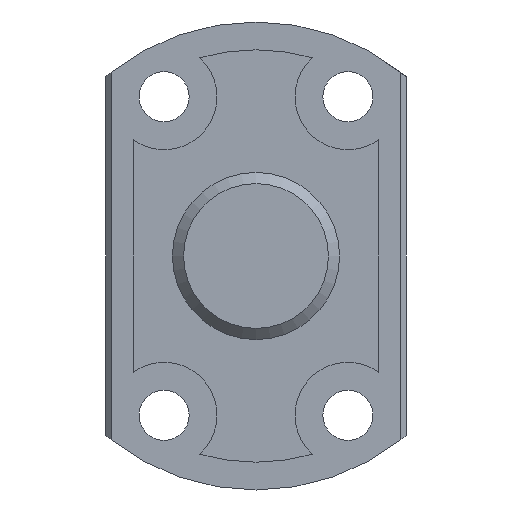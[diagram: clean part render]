
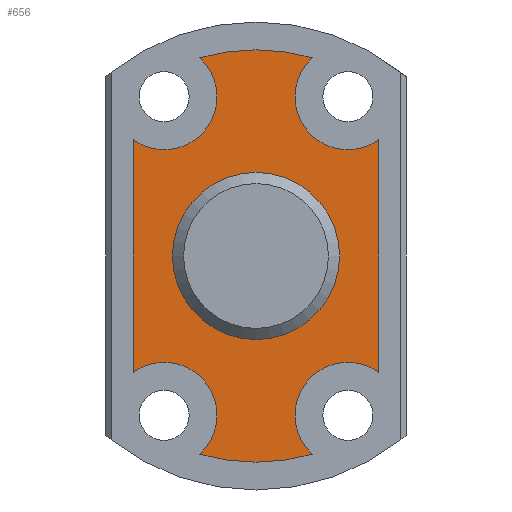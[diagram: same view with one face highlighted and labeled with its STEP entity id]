
A CAD part, left-side view. The second image highlights one B-rep face of the part: STEP entity #656.
In plain terms, the highlighted planar face has unit normal (-1, 0, 0).
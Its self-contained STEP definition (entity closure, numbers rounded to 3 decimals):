
#568=CARTESIAN_POINT('',(203.5,0.,0.0));
#569=DIRECTION('',(1.0,0.0,0.0));
#570=DIRECTION('',(0.0,0.0,-1.0));
#571=AXIS2_PLACEMENT_3D('',#568,#569,#570);
#572=PLANE('',#571);
#573=CARTESIAN_POINT('',(203.5,-11.0,-10.416));
#574=VERTEX_POINT('',#573);
#575=CARTESIAN_POINT('',(203.5,-5.048,-17.798));
#576=VERTEX_POINT('',#575);
#577=CARTESIAN_POINT('',(203.5,-8.25,-14.289));
#578=DIRECTION('',(-1.0,0.0,0.0));
#579=DIRECTION('',(0.0,1.0,0.0));
#580=AXIS2_PLACEMENT_3D('',#577,#578,#579);
#581=CIRCLE('',#580,4.75);
#582=EDGE_CURVE('',#574,#576,#581,.T.);
#583=ORIENTED_EDGE('',*,*,#582,.F.);
#584=CARTESIAN_POINT('',(203.5,-11.0,10.416));
#585=VERTEX_POINT('',#584);
#586=CARTESIAN_POINT('',(203.5,-11.0,-10.416));
#587=DIRECTION('',(0.0,0.0,1.0));
#588=VECTOR('',#587,20.833);
#589=LINE('',#586,#588);
#590=EDGE_CURVE('',#574,#585,#589,.T.);
#591=ORIENTED_EDGE('',*,*,#590,.T.);
#592=CARTESIAN_POINT('',(203.5,-5.048,17.798));
#593=VERTEX_POINT('',#592);
#594=CARTESIAN_POINT('',(203.5,-8.25,14.289));
#595=DIRECTION('',(-1.0,0.0,0.0));
#596=DIRECTION('',(0.0,1.0,0.0));
#597=AXIS2_PLACEMENT_3D('',#594,#595,#596);
#598=CIRCLE('',#597,4.75);
#599=EDGE_CURVE('',#593,#585,#598,.T.);
#600=ORIENTED_EDGE('',*,*,#599,.F.);
#601=CARTESIAN_POINT('',(203.5,5.048,17.798));
#602=VERTEX_POINT('',#601);
#603=CARTESIAN_POINT('',(203.5,0.0,0.0));
#604=DIRECTION('',(-1.0,0.0,0.0));
#605=DIRECTION('',(0.0,1.0,0.0));
#606=AXIS2_PLACEMENT_3D('',#603,#604,#605);
#607=CIRCLE('',#606,18.5);
#608=EDGE_CURVE('',#593,#602,#607,.T.);
#609=ORIENTED_EDGE('',*,*,#608,.T.);
#610=CARTESIAN_POINT('',(203.5,11.0,10.416));
#611=VERTEX_POINT('',#610);
#612=CARTESIAN_POINT('',(203.5,8.25,14.289));
#613=DIRECTION('',(-1.0,0.0,0.0));
#614=DIRECTION('',(0.0,1.0,0.0));
#615=AXIS2_PLACEMENT_3D('',#612,#613,#614);
#616=CIRCLE('',#615,4.75);
#617=EDGE_CURVE('',#611,#602,#616,.T.);
#618=ORIENTED_EDGE('',*,*,#617,.F.);
#619=CARTESIAN_POINT('',(203.5,11.0,-10.416));
#620=VERTEX_POINT('',#619);
#621=CARTESIAN_POINT('',(203.5,11.0,10.416));
#622=DIRECTION('',(0.0,0.0,-1.0));
#623=VECTOR('',#622,20.833);
#624=LINE('',#621,#623);
#625=EDGE_CURVE('',#611,#620,#624,.T.);
#626=ORIENTED_EDGE('',*,*,#625,.T.);
#627=CARTESIAN_POINT('',(203.5,5.048,-17.798));
#628=VERTEX_POINT('',#627);
#629=CARTESIAN_POINT('',(203.5,8.25,-14.289));
#630=DIRECTION('',(-1.0,0.0,0.0));
#631=DIRECTION('',(0.0,1.0,0.0));
#632=AXIS2_PLACEMENT_3D('',#629,#630,#631);
#633=CIRCLE('',#632,4.75);
#634=EDGE_CURVE('',#628,#620,#633,.T.);
#635=ORIENTED_EDGE('',*,*,#634,.F.);
#636=CARTESIAN_POINT('',(203.5,0.0,0.0));
#637=DIRECTION('',(-1.0,0.0,0.0));
#638=DIRECTION('',(0.0,1.0,0.0));
#639=AXIS2_PLACEMENT_3D('',#636,#637,#638);
#640=CIRCLE('',#639,18.5);
#641=EDGE_CURVE('',#628,#576,#640,.T.);
#642=ORIENTED_EDGE('',*,*,#641,.T.);
#643=EDGE_LOOP('',(#583,#591,#600,#609,#618,#626,#635,#642));
#644=FACE_OUTER_BOUND('',#643,.T.);
#645=CARTESIAN_POINT('',(203.5,0.,7.5));
#646=VERTEX_POINT('',#645);
#647=CARTESIAN_POINT('',(203.5,0.0,0.0));
#648=DIRECTION('',(-1.0,0.0,0.0));
#649=DIRECTION('',(0.0,-1.0,0.0));
#650=AXIS2_PLACEMENT_3D('',#647,#648,#649);
#651=CIRCLE('',#650,7.5);
#652=EDGE_CURVE('',#646,#646,#651,.T.);
#653=ORIENTED_EDGE('',*,*,#652,.F.);
#654=EDGE_LOOP('',(#653));
#655=FACE_BOUND('',#654,.T.);
#656=ADVANCED_FACE('',(#644,#655),#572,.F.);
